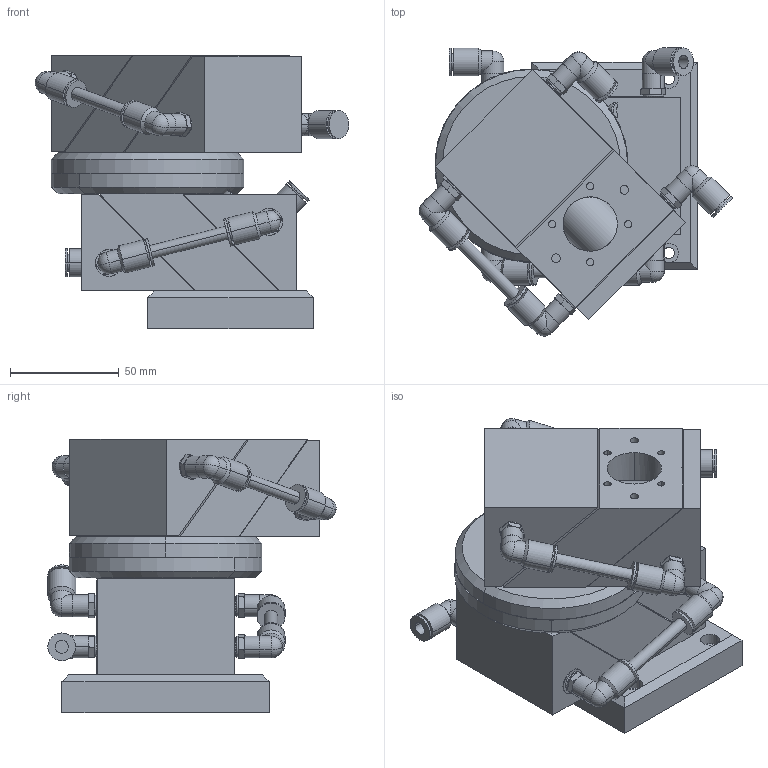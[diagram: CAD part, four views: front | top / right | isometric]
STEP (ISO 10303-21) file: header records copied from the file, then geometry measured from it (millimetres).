
FILE_DESCRIPTION (( 'STEP AP214' ), '1' );
FILE_NAME ('BQE-25-CFB.STEP', '2016-11-29T18:40:09', ( '' ), ( '' ), 'SwSTEP 2.0', 'SolidWorks 2016', '' );
FILE_SCHEMA (( 'AUTOMOTIVE_DESIGN' ));
Length unit declared in the file: inch
Products named in the file (1): BQE-25-CFB
Bounding box: 144.09 x 132.43 x 125.63 mm (x, y, z)
Volume: 777903.8 mm3; surface area: 112105.1 mm2
Topology: 1 solids, 1 shells, 604 faces, 1393 edges, 870 vertices
Faces by surface type: cylinder 235, plane 230, cone 67, torus 56, sphere 16
Entity records: 17683 total; most frequent: CARTESIAN_POINT 3662, DIRECTION 3091, ORIENTED_EDGE 2754, EDGE_CURVE 1377, AXIS2_PLACEMENT_3D 1251, VERTEX_POINT 870, EDGE_LOOP 743, CIRCLE 646
